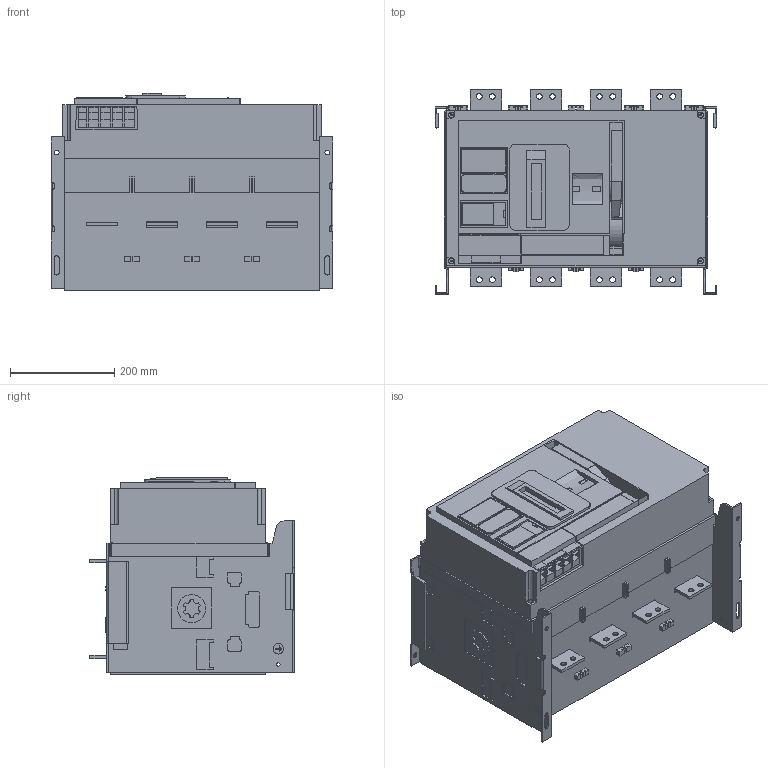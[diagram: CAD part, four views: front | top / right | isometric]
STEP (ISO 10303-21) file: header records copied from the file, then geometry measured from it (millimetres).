
FILE_DESCRIPTION((''),'2;1');
FILE_NAME('TA1AD4L12H4TPE_3D-SIMPLIFIED_ASM','2024-07-04T16:00:22',('SESA540900'),('Schneider-Electric'),'CREO PARAMETRIC BY PTC INC, 2021284','CREO PARAMETRIC BY PTC INC, 2021284','');
FILE_SCHEMA(('AP242_MANAGED_MODEL_BASED_3D_ENGINEERING_MIM_LF { 1 0 10303 442 1 1 4 }'));
Length unit declared in the file: millimetre
Products named in the file (2): PRT0002; TA1AD4L12H4TPE_3D-SIMPLIFIED_ASM
Assembly tree (1 placements, depth 2):
  TA1AD4L12H4TPE_3D-SIMPLIFIED_ASM
    PRT0002
Bounding box: 540 x 391 x 378 mm (x, y, z)
Volume: 53078318.1 mm3; surface area: 1395723.6 mm2
Topology: 1 solids, 8 shells, 1269 faces, 3637 edges, 2494 vertices
Faces by surface type: plane 900, cylinder 341, extrusion 28
Entity records: 53444 total; most frequent: CARTESIAN_POINT 8325, ORIENTED_EDGE 7274, DIRECTION 6934, EDGE_CURVE 3637, VECTOR 2690, LINE 2662, VERTEX_POINT 2494, AXIS2_PLACEMENT_3D 2122
